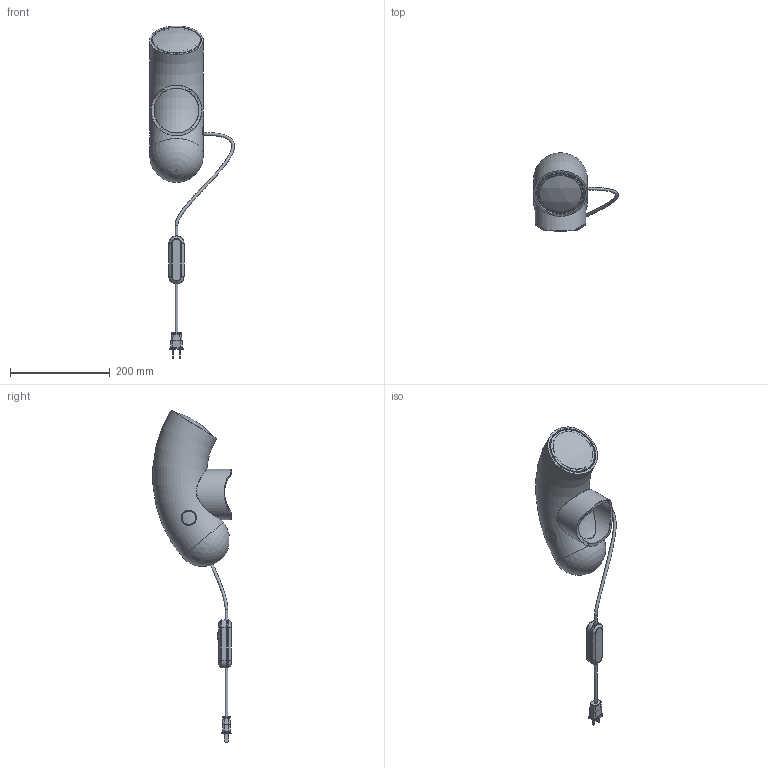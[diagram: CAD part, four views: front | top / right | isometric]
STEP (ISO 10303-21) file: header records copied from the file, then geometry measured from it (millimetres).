
FILE_DESCRIPTION(/* description */ (''),/* implementation_level */ '2;1');
FILE_NAME(/* name */ '/Users/guillaumeaube/Google Drive/00-Nouvelle Structure Drive/01-Produits/2020-Hyphen/02-Marketing/3D/HYTASIXX_SIMPLE.step',/* time_stamp */ '2022-03-17T17:19:24-04:00',/* author */ (''),/* organization */ (''),/* preprocessor_version */ 'ST-DEVELOPER v18.1',/* originating_system */ 'Autodesk Translation Framework v10.13.0.1454',/* authorisation */ '');
FILE_SCHEMA (('AUTOMOTIVE_DESIGN { 1 0 10303 214 3 1 1 }'));
Length unit declared in the file: millimetre
Products named in the file (17): HYTASIXX; A-0596; P-ROD0597ALUM; R-SHT0598POLY; R-SHT0598POLY_1; A-0569STEL; P-WEL0449STEL; LIGHT BULB PLATE; WELDNUT SINGLE; WELDNUT DOUBLE; SEE TABLE; P-CNC0565BRAS; P-CNC0566BRAS; E-MSC0595POLY-C03; W-18G0580-C03; W-18G0580-C03_1; E-MSC0102POLY-C03
Assembly tree (16 placements, depth 4):
  HYTASIXX
    A-0596
      P-ROD0597ALUM
      R-SHT0598POLY
      R-SHT0598POLY_1
    A-0569STEL
      P-WEL0449STEL
        LIGHT BULB PLATE
        WELDNUT SINGLE
        WELDNUT DOUBLE
      SEE TABLE
    P-CNC0565BRAS
    P-CNC0566BRAS
    E-MSC0595POLY-C03
    W-18G0580-C03
    W-18G0580-C03_1
    E-MSC0102POLY-C03
Bounding box: 170.34 x 156.9 x 666.91 mm (x, y, z)
Volume: 605885.6 mm3; surface area: 330574.1 mm2
Topology: 19 solids, 20 shells, 480 faces, 1114 edges, 673 vertices
Faces by surface type: cylinder 141, bspline 127, plane 122, torus 53, sphere 27, cone 10
Full cylindrical faces by diameter (mm): 3.416 x4, 5.118 x3, 5.5 x3, 5.6 x2, 8 x1, 10 x1, 22.636 x4, 25.209 x5, 25.4 x1, 28.575 x2, 30.48 x2, 90.119 x1, 95.352 x1, 101.6 x1
Entity records: 27160 total; most frequent: CARTESIAN_POINT 16475, ORIENTED_EDGE 2209, DIRECTION 1977, EDGE_CURVE 1105, AXIS2_PLACEMENT_3D 807, VERTEX_POINT 673, EDGE_LOOP 515, FACE_OUTER_BOUND 480
